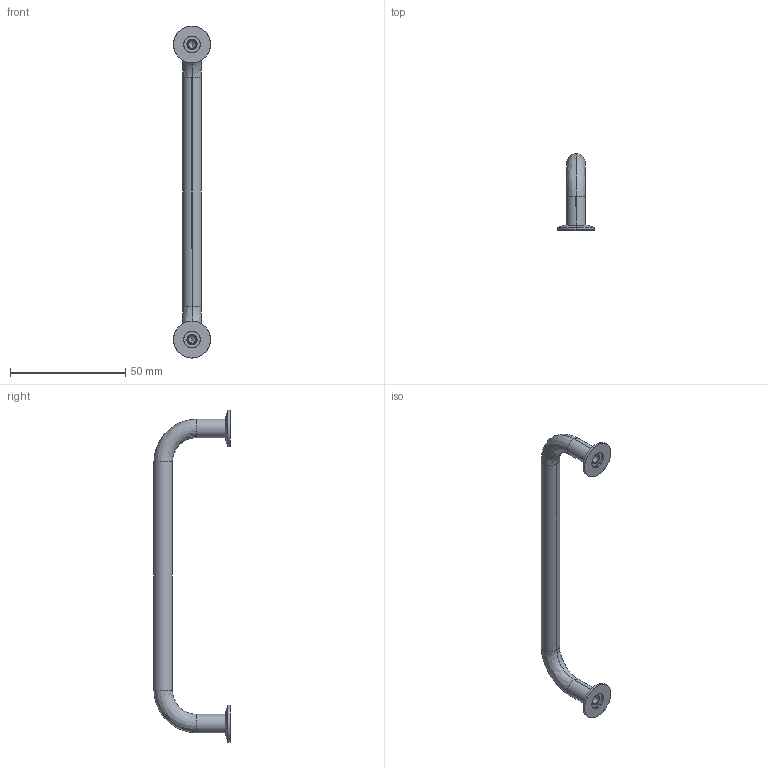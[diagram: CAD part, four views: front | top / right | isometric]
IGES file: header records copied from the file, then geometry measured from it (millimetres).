
Start section: SolidWorks IGES file using analytic representation for surfaces
Global section: file name: C:\Documents and Settings\IANO\Desktop\Temp File\Process pending\PCN pending\78700_v2\78700_v2_20170116_IGES\78700.W0113.igs; native system: SolidWorks 2009; preprocessor: SolidWorks 2009; author: IANO; date: 170310.095729; units: millimetre
Bounding box: 16 x 33 x 144 mm (x, y, z)
Surface area: 5450.2 mm2 (no closed solid volume)
Topology: 0 solids, 0 shells, 52 faces, 808 edges, 804 vertices
Faces by surface type: revolution 38, bspline 14
